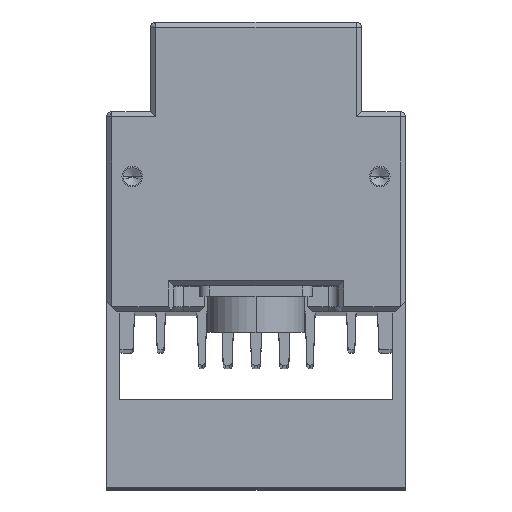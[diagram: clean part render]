
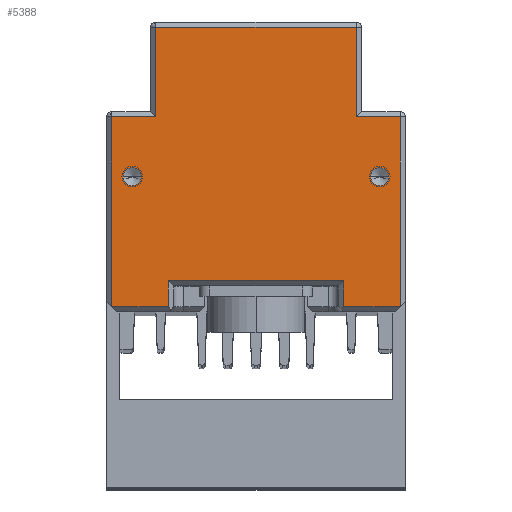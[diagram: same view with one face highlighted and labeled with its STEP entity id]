
A CAD part, top view. The second image highlights one B-rep face of the part: STEP entity #5388.
In plain terms, the highlighted planar face has unit normal (0, 0, 1).
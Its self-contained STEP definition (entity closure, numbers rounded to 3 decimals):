
#757=CARTESIAN_POINT('',(-24.,15.794,235.));
#758=DIRECTION('',(0.,0.,1.));
#759=DIRECTION('',(-1.,0.,0.));
#760=AXIS2_PLACEMENT_3D('',#757,#758,#759);
#762=CARTESIAN_POINT('',(-24.,15.794,235.));
#763=DIRECTION('',(0.,0.,1.));
#764=DIRECTION('',(1.,0.,0.));
#765=AXIS2_PLACEMENT_3D('',#762,#763,#764);
#767=CARTESIAN_POINT('',(24.,15.794,235.));
#768=DIRECTION('',(0.,0.,1.));
#769=DIRECTION('',(-1.,0.,0.));
#770=AXIS2_PLACEMENT_3D('',#767,#768,#769);
#772=CARTESIAN_POINT('',(24.,15.794,235.));
#773=DIRECTION('',(0.,0.,1.));
#774=DIRECTION('',(1.,0.,0.));
#775=AXIS2_PLACEMENT_3D('',#772,#773,#774);
#777=DIRECTION('',(1.,0.,0.));
#778=VECTOR('',#777,11.);
#779=CARTESIAN_POINT('',(-28.,-9.406,235.));
#780=LINE('',#779,#778);
#781=DIRECTION('',(0.,-1.,0.));
#782=VECTOR('',#781,36.8);
#783=CARTESIAN_POINT('',(-28.,27.394,235.));
#784=LINE('',#783,#782);
#785=DIRECTION('',(-1.,0.,0.));
#786=VECTOR('',#785,8.55);
#787=CARTESIAN_POINT('',(-19.45,27.394,235.));
#788=LINE('',#787,#786);
#789=DIRECTION('',(0.,-1.,0.));
#790=VECTOR('',#789,17.4);
#791=CARTESIAN_POINT('',(-19.45,44.794,235.));
#792=LINE('',#791,#790);
#793=DIRECTION('',(-1.,0.,0.));
#794=VECTOR('',#793,38.899);
#795=CARTESIAN_POINT('',(19.45,44.794,235.));
#796=LINE('',#795,#794);
#797=DIRECTION('',(0.,1.,0.));
#798=VECTOR('',#797,17.4);
#799=CARTESIAN_POINT('',(19.45,27.394,235.));
#800=LINE('',#799,#798);
#801=DIRECTION('',(-1.,0.,0.));
#802=VECTOR('',#801,8.55);
#803=CARTESIAN_POINT('',(28.,27.394,235.));
#804=LINE('',#803,#802);
#805=DIRECTION('',(0.,1.,0.));
#806=VECTOR('',#805,36.8);
#807=CARTESIAN_POINT('',(28.,-9.406,235.));
#808=LINE('',#807,#806);
#809=DIRECTION('',(1.,0.,0.));
#810=VECTOR('',#809,11.);
#811=CARTESIAN_POINT('',(17.,-9.406,235.));
#812=LINE('',#811,#810);
#813=DIRECTION('',(0.,-1.,0.));
#814=VECTOR('',#813,5.);
#815=CARTESIAN_POINT('',(17.,-4.406,235.));
#816=LINE('',#815,#814);
#817=DIRECTION('',(-1.,0.,0.));
#818=VECTOR('',#817,34.);
#819=CARTESIAN_POINT('',(17.,-4.406,235.));
#820=LINE('',#819,#818);
#821=DIRECTION('',(0.,1.,0.));
#822=VECTOR('',#821,5.);
#823=CARTESIAN_POINT('',(-17.,-9.406,235.));
#824=LINE('',#823,#822);
#4129=CARTESIAN_POINT('',(-28.,-9.406,235.));
#4130=CARTESIAN_POINT('',(-17.,-9.406,235.));
#4131=VERTEX_POINT('',#4129);
#4132=VERTEX_POINT('',#4130);
#4141=CARTESIAN_POINT('',(-28.,27.394,235.));
#4142=VERTEX_POINT('',#4141);
#4145=CARTESIAN_POINT('',(-19.45,27.394,235.));
#4146=VERTEX_POINT('',#4145);
#4149=CARTESIAN_POINT('',(19.45,27.394,235.));
#4150=CARTESIAN_POINT('',(19.45,44.794,235.));
#4151=VERTEX_POINT('',#4149);
#4152=VERTEX_POINT('',#4150);
#4159=CARTESIAN_POINT('',(-19.45,44.794,235.));
#4160=VERTEX_POINT('',#4159);
#4165=CARTESIAN_POINT('',(28.,-9.406,235.));
#4166=CARTESIAN_POINT('',(28.,27.394,235.));
#4167=VERTEX_POINT('',#4165);
#4168=VERTEX_POINT('',#4166);
#4179=CARTESIAN_POINT('',(17.,-9.406,235.));
#4180=VERTEX_POINT('',#4179);
#4201=CARTESIAN_POINT('',(17.,-4.406,235.));
#4202=VERTEX_POINT('',#4201);
#4203=CARTESIAN_POINT('',(-17.,-4.406,235.));
#4204=VERTEX_POINT('',#4203);
#4235=CARTESIAN_POINT('',(-25.75,15.794,235.));
#4236=CARTESIAN_POINT('',(-22.25,15.794,235.));
#4237=VERTEX_POINT('',#4235);
#4238=VERTEX_POINT('',#4236);
#4245=CARTESIAN_POINT('',(22.25,15.794,235.));
#4246=CARTESIAN_POINT('',(25.75,15.794,235.));
#4247=VERTEX_POINT('',#4245);
#4248=VERTEX_POINT('',#4246);
#5346=CARTESIAN_POINT('',(0.,0.,235.));
#5347=DIRECTION('',(0.,0.,1.));
#5348=DIRECTION('',(1.,0.,0.));
#5349=AXIS2_PLACEMENT_3D('',#5346,#5347,#5348);
#5350=PLANE('',#5349);
#5352=ORIENTED_EDGE('',*,*,#5351,.F.);
#5354=ORIENTED_EDGE('',*,*,#5353,.F.);
#5356=ORIENTED_EDGE('',*,*,#5355,.F.);
#5358=ORIENTED_EDGE('',*,*,#5357,.F.);
#5360=ORIENTED_EDGE('',*,*,#5359,.F.);
#5362=ORIENTED_EDGE('',*,*,#5361,.F.);
#5364=ORIENTED_EDGE('',*,*,#5363,.F.);
#5366=ORIENTED_EDGE('',*,*,#5365,.F.);
#5368=ORIENTED_EDGE('',*,*,#5367,.F.);
#5370=ORIENTED_EDGE('',*,*,#5369,.F.);
#5372=ORIENTED_EDGE('',*,*,#5371,.T.);
#5373=ORIENTED_EDGE('',*,*,#5335,.F.);
#5374=EDGE_LOOP('',(#5352,#5354,#5356,#5358,#5360,#5362,#5364,#5366,#5368,#5370,
#5372,#5373));
#5375=FACE_OUTER_BOUND('',#5374,.F.);
#5377=ORIENTED_EDGE('',*,*,#5376,.T.);
#5379=ORIENTED_EDGE('',*,*,#5378,.T.);
#5380=EDGE_LOOP('',(#5377,#5379));
#5381=FACE_BOUND('',#5380,.F.);
#5383=ORIENTED_EDGE('',*,*,#5382,.T.);
#5385=ORIENTED_EDGE('',*,*,#5384,.T.);
#5386=EDGE_LOOP('',(#5383,#5385));
#5387=FACE_BOUND('',#5386,.F.);
#761=CIRCLE('',#760,1.75);
#766=CIRCLE('',#765,1.75);
#771=CIRCLE('',#770,1.75);
#776=CIRCLE('',#775,1.75);
#5335=EDGE_CURVE('',#4132,#4204,#824,.T.);
#5351=EDGE_CURVE('',#4131,#4132,#780,.T.);
#5353=EDGE_CURVE('',#4142,#4131,#784,.T.);
#5355=EDGE_CURVE('',#4146,#4142,#788,.T.);
#5357=EDGE_CURVE('',#4160,#4146,#792,.T.);
#5359=EDGE_CURVE('',#4152,#4160,#796,.T.);
#5361=EDGE_CURVE('',#4151,#4152,#800,.T.);
#5363=EDGE_CURVE('',#4168,#4151,#804,.T.);
#5365=EDGE_CURVE('',#4167,#4168,#808,.T.);
#5367=EDGE_CURVE('',#4180,#4167,#812,.T.);
#5369=EDGE_CURVE('',#4202,#4180,#816,.T.);
#5371=EDGE_CURVE('',#4202,#4204,#820,.T.);
#5376=EDGE_CURVE('',#4247,#4248,#771,.T.);
#5378=EDGE_CURVE('',#4248,#4247,#776,.T.);
#5382=EDGE_CURVE('',#4237,#4238,#761,.T.);
#5384=EDGE_CURVE('',#4238,#4237,#766,.T.);
#5388=ADVANCED_FACE('',(#5375,#5381,#5387),#5350,.T.);
